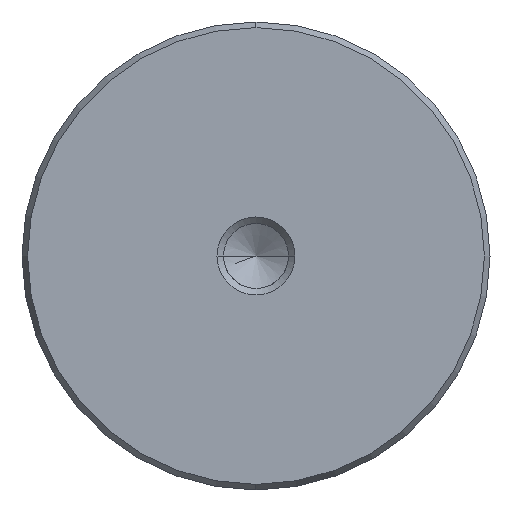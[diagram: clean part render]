
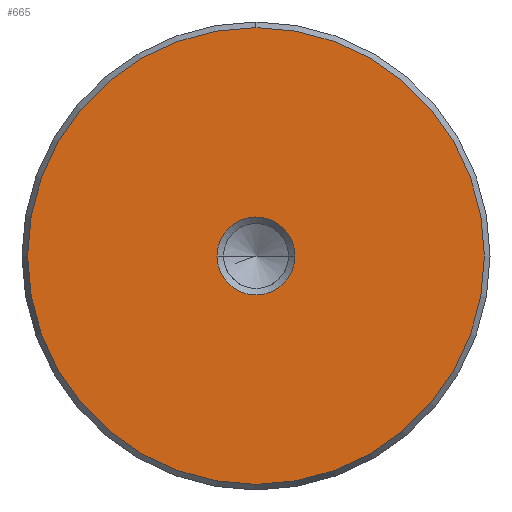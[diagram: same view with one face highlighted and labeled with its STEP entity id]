
A CAD part, left-side view. The second image highlights one B-rep face of the part: STEP entity #665.
In plain terms, the highlighted planar face has unit normal (-1, 0, 0).
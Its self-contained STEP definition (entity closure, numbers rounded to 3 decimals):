
#579=CARTESIAN_POINT('Vertex',(0.,0.,-23.423)) ;
#582=CARTESIAN_POINT('Axis2P3D Location',(0.,0.,0.)) ;
#586=CARTESIAN_POINT('Vertex',(0.,23.423,0.)) ;
#589=CARTESIAN_POINT('Axis2P3D Location',(0.,0.,0.)) ;
#593=CARTESIAN_POINT('Vertex',(0.,0.,23.423)) ;
#615=CARTESIAN_POINT('Axis2P3D Location',(0.,0.,0.)) ;
#619=CARTESIAN_POINT('Vertex',(0.,-23.423,0.)) ;
#622=CARTESIAN_POINT('Axis2P3D Location',(0.,0.,0.)) ;
#636=CARTESIAN_POINT('Axis2P3D Location',(0.,0.,0.)) ;
#647=CARTESIAN_POINT('Axis2P3D Location',(0.,0.,0.)) ;
#651=CARTESIAN_POINT('Vertex',(0.,4.,0.)) ;
#653=CARTESIAN_POINT('Vertex',(0.,-4.,0.)) ;
#656=CARTESIAN_POINT('Axis2P3D Location',(0.,0.,0.)) ;
#583=DIRECTION('Axis2P3D Direction',(1.,0.,-0.)) ;
#590=DIRECTION('Axis2P3D Direction',(1.,0.,-0.)) ;
#616=DIRECTION('Axis2P3D Direction',(1.,0.,-0.)) ;
#623=DIRECTION('Axis2P3D Direction',(1.,0.,-0.)) ;
#637=DIRECTION('Axis2P3D Direction',(1.,0.,-0.)) ;
#638=DIRECTION('Axis2P3D XDirection',(-0.,0.,-1.)) ;
#648=DIRECTION('Axis2P3D Direction',(1.,0.,-0.)) ;
#657=DIRECTION('Axis2P3D Direction',(1.,0.,-0.)) ;
#584=AXIS2_PLACEMENT_3D('Circle Axis2P3D',#582,#583,$) ;
#591=AXIS2_PLACEMENT_3D('Circle Axis2P3D',#589,#590,$) ;
#617=AXIS2_PLACEMENT_3D('Circle Axis2P3D',#615,#616,$) ;
#624=AXIS2_PLACEMENT_3D('Circle Axis2P3D',#622,#623,$) ;
#639=AXIS2_PLACEMENT_3D('Plane Axis2P3D',#636,#637,#638) ;
#649=AXIS2_PLACEMENT_3D('Circle Axis2P3D',#647,#648,$) ;
#658=AXIS2_PLACEMENT_3D('Circle Axis2P3D',#656,#657,$) ;
#642=ORIENTED_EDGE('',*,*,#588,.F.) ;
#643=ORIENTED_EDGE('',*,*,#626,.F.) ;
#644=ORIENTED_EDGE('',*,*,#621,.F.) ;
#645=ORIENTED_EDGE('',*,*,#595,.F.) ;
#662=ORIENTED_EDGE('',*,*,#655,.T.) ;
#663=ORIENTED_EDGE('',*,*,#660,.T.) ;
#664=FACE_BOUND('',#661,.T.) ;
#665=ADVANCED_FACE('720-48x450',(#646,#664),#640,.F.) ;
#585=CIRCLE('generated circle',#584,23.423) ;
#592=CIRCLE('generated circle',#591,23.423) ;
#618=CIRCLE('generated circle',#617,23.423) ;
#625=CIRCLE('generated circle',#624,23.423) ;
#650=CIRCLE('generated circle',#649,4.) ;
#659=CIRCLE('generated circle',#658,4.) ;
#588=EDGE_CURVE('',#580,#587,#585,.T.) ;
#595=EDGE_CURVE('',#587,#594,#592,.T.) ;
#621=EDGE_CURVE('',#594,#620,#618,.T.) ;
#626=EDGE_CURVE('',#620,#580,#625,.T.) ;
#655=EDGE_CURVE('',#652,#654,#650,.T.) ;
#660=EDGE_CURVE('',#654,#652,#659,.T.) ;
#641=EDGE_LOOP('',(#642,#643,#644,#645)) ;
#661=EDGE_LOOP('',(#662,#663)) ;
#646=FACE_OUTER_BOUND('',#641,.T.) ;
#640=PLANE('Plane',#639) ;
#580=VERTEX_POINT('',#579) ;
#587=VERTEX_POINT('',#586) ;
#594=VERTEX_POINT('',#593) ;
#620=VERTEX_POINT('',#619) ;
#652=VERTEX_POINT('',#651) ;
#654=VERTEX_POINT('',#653) ;
